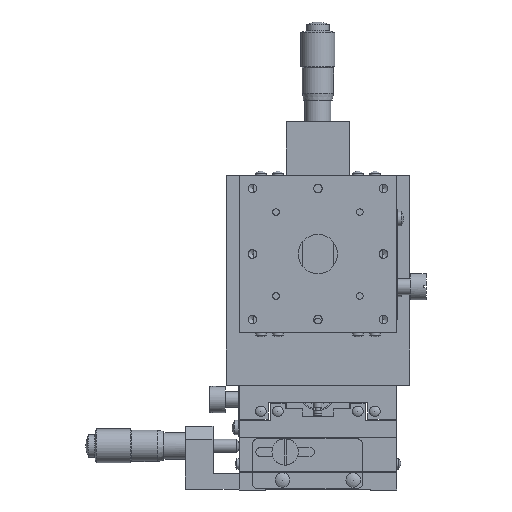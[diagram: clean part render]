
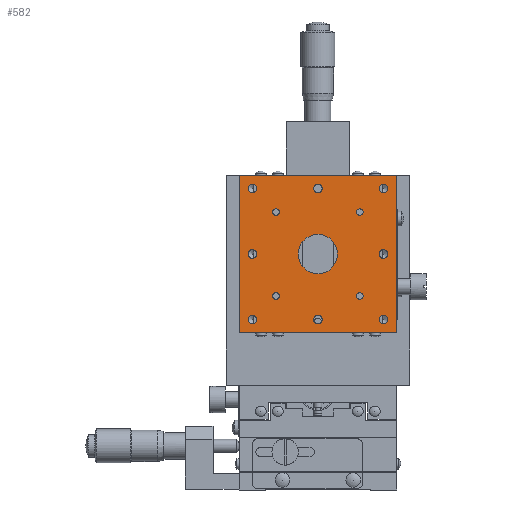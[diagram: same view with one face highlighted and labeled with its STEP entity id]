
A CAD part, front view. The second image highlights one B-rep face of the part: STEP entity #582.
In plain terms, the highlighted planar face has unit normal (0, -1, 0).
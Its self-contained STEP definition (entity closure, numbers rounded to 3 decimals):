
#582 = ADVANCED_FACE( '', ( #1273, #1274, #1275, #1276, #1277, #1278, #1279, #1280, #1281, #1282, #1283, #1284, #1285, #1286 ), #1287, .T. );
#1273 = FACE_BOUND( '', #2766, .T. );
#1274 = FACE_BOUND( '', #2767, .T. );
#1275 = FACE_BOUND( '', #2768, .T. );
#1276 = FACE_BOUND( '', #2769, .T. );
#1277 = FACE_BOUND( '', #2770, .T. );
#1278 = FACE_BOUND( '', #2771, .T. );
#1279 = FACE_BOUND( '', #2772, .T. );
#1280 = FACE_BOUND( '', #2773, .T. );
#1281 = FACE_BOUND( '', #2774, .T. );
#1282 = FACE_BOUND( '', #2775, .T. );
#1283 = FACE_BOUND( '', #2776, .T. );
#1284 = FACE_BOUND( '', #2777, .T. );
#1285 = FACE_BOUND( '', #2778, .T. );
#1286 = FACE_OUTER_BOUND( '', #2779, .T. );
#1287 = PLANE( '', #2780 );
#2766 = EDGE_LOOP( '', ( #4500 ) );
#2767 = EDGE_LOOP( '', ( #4501 ) );
#2768 = EDGE_LOOP( '', ( #4502 ) );
#2769 = EDGE_LOOP( '', ( #4503 ) );
#2770 = EDGE_LOOP( '', ( #4504 ) );
#2771 = EDGE_LOOP( '', ( #4505 ) );
#2772 = EDGE_LOOP( '', ( #4506 ) );
#2773 = EDGE_LOOP( '', ( #4507 ) );
#2774 = EDGE_LOOP( '', ( #4508 ) );
#2775 = EDGE_LOOP( '', ( #4509 ) );
#2776 = EDGE_LOOP( '', ( #4510 ) );
#2777 = EDGE_LOOP( '', ( #4511 ) );
#2778 = EDGE_LOOP( '', ( #4512 ) );
#2779 = EDGE_LOOP( '', ( #4513, #4514, #4515, #4516 ) );
#2780 = AXIS2_PLACEMENT_3D( '', #4517, #4518, #4519 );
#4500 = ORIENTED_EDGE( '', *, *, #7881, .T. );
#4501 = ORIENTED_EDGE( '', *, *, #7882, .T. );
#4502 = ORIENTED_EDGE( '', *, *, #7883, .T. );
#4503 = ORIENTED_EDGE( '', *, *, #7884, .T. );
#4504 = ORIENTED_EDGE( '', *, *, #7885, .T. );
#4505 = ORIENTED_EDGE( '', *, *, #7886, .T. );
#4506 = ORIENTED_EDGE( '', *, *, #7887, .T. );
#4507 = ORIENTED_EDGE( '', *, *, #7888, .T. );
#4508 = ORIENTED_EDGE( '', *, *, #7889, .T. );
#4509 = ORIENTED_EDGE( '', *, *, #7890, .T. );
#4510 = ORIENTED_EDGE( '', *, *, #7891, .T. );
#4511 = ORIENTED_EDGE( '', *, *, #7892, .T. );
#4512 = ORIENTED_EDGE( '', *, *, #7893, .T. );
#4513 = ORIENTED_EDGE( '', *, *, #7894, .F. );
#4514 = ORIENTED_EDGE( '', *, *, #7895, .F. );
#4515 = ORIENTED_EDGE( '', *, *, #7896, .F. );
#4516 = ORIENTED_EDGE( '', *, *, #7897, .F. );
#4517 = CARTESIAN_POINT( '', ( 0., -35., 90. ) );
#4518 = DIRECTION( '', ( 0., -1., 0. ) );
#4519 = DIRECTION( '', ( 1., 0., 0. ) );
#7881 = EDGE_CURVE( '', #9024, #9024, #9025, .T. );
#7882 = EDGE_CURVE( '', #9026, #9026, #9027, .T. );
#7883 = EDGE_CURVE( '', #9028, #9028, #9029, .T. );
#7884 = EDGE_CURVE( '', #9030, #9030, #9031, .T. );
#7885 = EDGE_CURVE( '', #9032, #9032, #9033, .T. );
#7886 = EDGE_CURVE( '', #9034, #9034, #9035, .T. );
#7887 = EDGE_CURVE( '', #9036, #9036, #9037, .T. );
#7888 = EDGE_CURVE( '', #9038, #9038, #9039, .T. );
#7889 = EDGE_CURVE( '', #9040, #9040, #9041, .T. );
#7890 = EDGE_CURVE( '', #9042, #9042, #9043, .T. );
#7891 = EDGE_CURVE( '', #9044, #9044, #9045, .T. );
#7892 = EDGE_CURVE( '', #9046, #9046, #9047, .T. );
#7893 = EDGE_CURVE( '', #9048, #9048, #9049, .T. );
#7894 = EDGE_CURVE( '', #9050, #9051, #9052, .T. );
#7895 = EDGE_CURVE( '', #9053, #9050, #9054, .T. );
#7896 = EDGE_CURVE( '', #9055, #9053, #9056, .T. );
#7897 = EDGE_CURVE( '', #9051, #9055, #9057, .T. );
#9024 = VERTEX_POINT( '', #11144 );
#9025 = CIRCLE( '', #11145, 7.5 );
#9026 = VERTEX_POINT( '', #11146 );
#9027 = CIRCLE( '', #11147, 1.25 );
#9028 = VERTEX_POINT( '', #11148 );
#9029 = CIRCLE( '', #11149, 1.25 );
#9030 = VERTEX_POINT( '', #11150 );
#9031 = CIRCLE( '', #11151, 1.25 );
#9032 = VERTEX_POINT( '', #11152 );
#9033 = CIRCLE( '', #11153, 1.25 );
#9034 = VERTEX_POINT( '', #11154 );
#9035 = CIRCLE( '', #11155, 1.65 );
#9036 = VERTEX_POINT( '', #11156 );
#9037 = CIRCLE( '', #11157, 1.65 );
#9038 = VERTEX_POINT( '', #11158 );
#9039 = CIRCLE( '', #11159, 1.65 );
#9040 = VERTEX_POINT( '', #11160 );
#9041 = CIRCLE( '', #11161, 1.65 );
#9042 = VERTEX_POINT( '', #11162 );
#9043 = CIRCLE( '', #11163, 1.65 );
#9044 = VERTEX_POINT( '', #11164 );
#9045 = CIRCLE( '', #11165, 1.65 );
#9046 = VERTEX_POINT( '', #11166 );
#9047 = CIRCLE( '', #11167, 1.65 );
#9048 = VERTEX_POINT( '', #11168 );
#9049 = CIRCLE( '', #11169, 1.65 );
#9050 = VERTEX_POINT( '', #11170 );
#9051 = VERTEX_POINT( '', #11171 );
#9052 = LINE( '', #11172, #11173 );
#9053 = VERTEX_POINT( '', #11174 );
#9054 = LINE( '', #11175, #11176 );
#9055 = VERTEX_POINT( '', #11177 );
#9056 = LINE( '', #11178, #11179 );
#9057 = LINE( '', #11180, #11181 );
#11144 = CARTESIAN_POINT( '', ( 7.5, -35., 90. ) );
#11145 = AXIS2_PLACEMENT_3D( '', #13813, #13814, #13815 );
#11146 = CARTESIAN_POINT( '', ( 17.25, -35., 106. ) );
#11147 = AXIS2_PLACEMENT_3D( '', #13816, #13817, #13818 );
#11148 = CARTESIAN_POINT( '', ( -14.75, -35., 106. ) );
#11149 = AXIS2_PLACEMENT_3D( '', #13819, #13820, #13821 );
#11150 = CARTESIAN_POINT( '', ( -14.75, -35., 74. ) );
#11151 = AXIS2_PLACEMENT_3D( '', #13822, #13823, #13824 );
#11152 = CARTESIAN_POINT( '', ( 17.25, -35., 74. ) );
#11153 = AXIS2_PLACEMENT_3D( '', #13825, #13826, #13827 );
#11154 = CARTESIAN_POINT( '', ( 1.65, -35., 115. ) );
#11155 = AXIS2_PLACEMENT_3D( '', #13828, #13829, #13830 );
#11156 = CARTESIAN_POINT( '', ( 1.65, -35., 65. ) );
#11157 = AXIS2_PLACEMENT_3D( '', #13831, #13832, #13833 );
#11158 = CARTESIAN_POINT( '', ( 26.65, -35., 90. ) );
#11159 = AXIS2_PLACEMENT_3D( '', #13834, #13835, #13836 );
#11160 = CARTESIAN_POINT( '', ( 26.65, -35., 115. ) );
#11161 = AXIS2_PLACEMENT_3D( '', #13837, #13838, #13839 );
#11162 = CARTESIAN_POINT( '', ( -23.35, -35., 115. ) );
#11163 = AXIS2_PLACEMENT_3D( '', #13840, #13841, #13842 );
#11164 = CARTESIAN_POINT( '', ( -23.35, -35., 90. ) );
#11165 = AXIS2_PLACEMENT_3D( '', #13843, #13844, #13845 );
#11166 = CARTESIAN_POINT( '', ( -23.35, -35., 65. ) );
#11167 = AXIS2_PLACEMENT_3D( '', #13846, #13847, #13848 );
#11168 = CARTESIAN_POINT( '', ( 26.65, -35., 65. ) );
#11169 = AXIS2_PLACEMENT_3D( '', #13849, #13850, #13851 );
#11170 = CARTESIAN_POINT( '', ( 30., -35., 60. ) );
#11171 = CARTESIAN_POINT( '', ( -30., -35., 60. ) );
#11172 = CARTESIAN_POINT( '', ( 0., -35., 60. ) );
#11173 = VECTOR( '', #13852, 1000. );
#11174 = CARTESIAN_POINT( '', ( 30., -35., 120. ) );
#11175 = CARTESIAN_POINT( '', ( 30., -35., 90. ) );
#11176 = VECTOR( '', #13853, 1000. );
#11177 = CARTESIAN_POINT( '', ( -30., -35., 120. ) );
#11178 = CARTESIAN_POINT( '', ( 0., -35., 120. ) );
#11179 = VECTOR( '', #13854, 1000. );
#11180 = CARTESIAN_POINT( '', ( -30., -35., 90. ) );
#11181 = VECTOR( '', #13855, 1000. );
#13813 = CARTESIAN_POINT( '', ( 0., -35., 90. ) );
#13814 = DIRECTION( '', ( 0., 1., 0. ) );
#13815 = DIRECTION( '', ( 1., 0., 0. ) );
#13816 = CARTESIAN_POINT( '', ( 16., -35., 106. ) );
#13817 = DIRECTION( '', ( 0., 1., 0. ) );
#13818 = DIRECTION( '', ( 1., 0., 0. ) );
#13819 = CARTESIAN_POINT( '', ( -16., -35., 106. ) );
#13820 = DIRECTION( '', ( 0., 1., 0. ) );
#13821 = DIRECTION( '', ( 1., 0., 0. ) );
#13822 = CARTESIAN_POINT( '', ( -16., -35., 74. ) );
#13823 = DIRECTION( '', ( 0., 1., 0. ) );
#13824 = DIRECTION( '', ( 1., 0., 0. ) );
#13825 = CARTESIAN_POINT( '', ( 16., -35., 74. ) );
#13826 = DIRECTION( '', ( 0., 1., 0. ) );
#13827 = DIRECTION( '', ( 1., 0., 0. ) );
#13828 = CARTESIAN_POINT( '', ( 0., -35., 115. ) );
#13829 = DIRECTION( '', ( 0., 1., 0. ) );
#13830 = DIRECTION( '', ( 1., 0., 0. ) );
#13831 = CARTESIAN_POINT( '', ( 0., -35., 65. ) );
#13832 = DIRECTION( '', ( 0., 1., 0. ) );
#13833 = DIRECTION( '', ( 1., 0., 0. ) );
#13834 = CARTESIAN_POINT( '', ( 25., -35., 90. ) );
#13835 = DIRECTION( '', ( 0., 1., 0. ) );
#13836 = DIRECTION( '', ( 1., 0., 0. ) );
#13837 = CARTESIAN_POINT( '', ( 25., -35., 115. ) );
#13838 = DIRECTION( '', ( 0., 1., 0. ) );
#13839 = DIRECTION( '', ( 1., 0., 0. ) );
#13840 = CARTESIAN_POINT( '', ( -25., -35., 115. ) );
#13841 = DIRECTION( '', ( 0., 1., 0. ) );
#13842 = DIRECTION( '', ( 1., 0., 0. ) );
#13843 = CARTESIAN_POINT( '', ( -25., -35., 90. ) );
#13844 = DIRECTION( '', ( 0., 1., 0. ) );
#13845 = DIRECTION( '', ( 1., 0., 0. ) );
#13846 = CARTESIAN_POINT( '', ( -25., -35., 65. ) );
#13847 = DIRECTION( '', ( 0., 1., 0. ) );
#13848 = DIRECTION( '', ( 1., 0., 0. ) );
#13849 = CARTESIAN_POINT( '', ( 25., -35., 65. ) );
#13850 = DIRECTION( '', ( 0., 1., 0. ) );
#13851 = DIRECTION( '', ( 1., 0., 0. ) );
#13852 = DIRECTION( '', ( -1., 0., 0. ) );
#13853 = DIRECTION( '', ( 0., 0., -1. ) );
#13854 = DIRECTION( '', ( 1., 0., 0. ) );
#13855 = DIRECTION( '', ( 0., 0., 1. ) );
